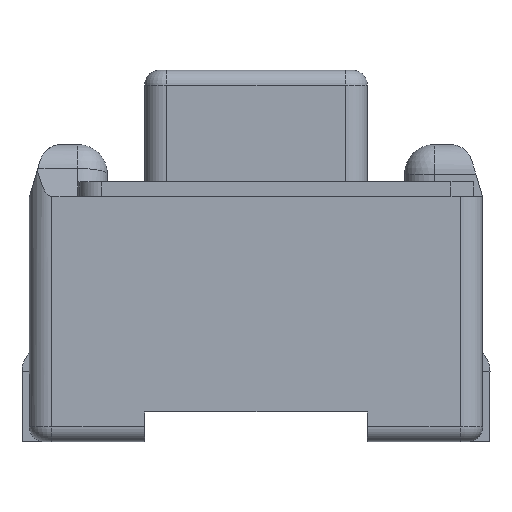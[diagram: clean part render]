
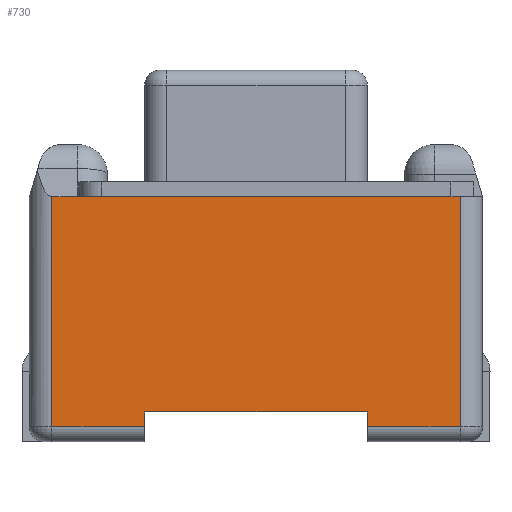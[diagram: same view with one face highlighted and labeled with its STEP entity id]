
A CAD part, front view. The second image highlights one B-rep face of the part: STEP entity #730.
In plain terms, the highlighted planar face has unit normal (0, -1, 0) as drawn and (0, 0, 1) by its records, which use the part's own axes.
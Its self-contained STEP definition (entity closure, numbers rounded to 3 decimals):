
#452 = ORIENTED_EDGE ( 'NONE', *, *, #453, .F. ) ;
#453 = EDGE_CURVE ( 'NONE', #528, #457, #3039, .T. ) ;
#455 = ORIENTED_EDGE ( 'NONE', *, *, #456, .F. ) ;
#456 = EDGE_CURVE ( 'NONE', #457, #527, #3174, .T. ) ;
#457 = VERTEX_POINT ( 'NONE', #3170 ) ;
#469 = VERTEX_POINT ( 'NONE', #3475 ) ;
#470 = ORIENTED_EDGE ( 'NONE', *, *, #531, .T. ) ;
#526 = EDGE_CURVE ( 'NONE', #469, #527, #3309, .T. ) ;
#527 = VERTEX_POINT ( 'NONE', #3305 ) ;
#528 = VERTEX_POINT ( 'NONE', #3304 ) ;
#530 = ORIENTED_EDGE ( 'NONE', *, *, #526, .T. ) ;
#531 = EDGE_CURVE ( 'NONE', #723, #469, #3453, .T. ) ;
#534 = VERTEX_POINT ( 'NONE', #3448 ) ;
#535 = ORIENTED_EDGE ( 'NONE', *, *, #536, .F. ) ;
#536 = EDGE_CURVE ( 'NONE', #534, #570, #3447, .T. ) ;
#566 = ORIENTED_EDGE ( 'NONE', *, *, #567, .T. ) ;
#567 = EDGE_CURVE ( 'NONE', #534, #722, #3571, .T. ) ;
#568 = VERTEX_POINT ( 'NONE', #3520 ) ;
#569 = EDGE_CURVE ( 'NONE', #528, #568, #3519, .T. ) ;
#570 = VERTEX_POINT ( 'NONE', #3515 ) ;
#574 = ORIENTED_EDGE ( 'NONE', *, *, #575, .F. ) ;
#575 = EDGE_CURVE ( 'NONE', #570, #568, #3629, .T. ) ;
#576 = ORIENTED_EDGE ( 'NONE', *, *, #569, .T. ) ;
#703 = EDGE_CURVE ( 'NONE', #721, #722, #4106, .T. ) ;
#713 = ORIENTED_EDGE ( 'NONE', *, *, #714, .T. ) ;
#714 = EDGE_CURVE ( 'NONE', #721, #717, #4058, .T. ) ;
#717 = VERTEX_POINT ( 'NONE', #4052 ) ;
#718 = ORIENTED_EDGE ( 'NONE', *, *, #719, .F. ) ;
#719 = EDGE_CURVE ( 'NONE', #723, #717, #4051, .T. ) ;
#721 = VERTEX_POINT ( 'NONE', #4030 ) ;
#722 = VERTEX_POINT ( 'NONE', #4029 ) ;
#723 = VERTEX_POINT ( 'NONE', #4028 ) ;
#730 = ADVANCED_FACE ( 'NONE', ( #4078 ), #4119, .F. ) ;
#737 = EDGE_LOOP ( 'NONE', ( #831, #713, #718, #470, #530, #455, #452, #576, #574, #535, #566 ) ) ;
#831 = ORIENTED_EDGE ( 'NONE', *, *, #703, .F. ) ;
#3036 = DIRECTION ( 'NONE',  ( -1., 0., 0. ) ) ;
#3037 = VECTOR ( 'NONE', #3036, 1000. ) ;
#3038 = CARTESIAN_POINT ( 'NONE',  ( 0., 0.4, 1.75 ) ) ;
#3039 = LINE ( 'NONE', #3038, #3037 ) ;
#3170 = CARTESIAN_POINT ( 'NONE',  ( -1.5, 0.4, 1.75 ) ) ;
#3171 = DIRECTION ( 'NONE',  ( 0., -1., 0. ) ) ;
#3172 = VECTOR ( 'NONE', #3171, 1000. ) ;
#3173 = CARTESIAN_POINT ( 'NONE',  ( -1.5, 0.4, 1.75 ) ) ;
#3174 = LINE ( 'NONE', #3173, #3172 ) ;
#3304 = CARTESIAN_POINT ( 'NONE',  ( 1.5, 0.4, 1.75 ) ) ;
#3305 = CARTESIAN_POINT ( 'NONE',  ( -1.5, 0.2, 1.75 ) ) ;
#3306 = DIRECTION ( 'NONE',  ( 1., 0., 0. ) ) ;
#3307 = VECTOR ( 'NONE', #3306, 1000. ) ;
#3308 = CARTESIAN_POINT ( 'NONE',  ( -1.5, 0.2, 1.75 ) ) ;
#3309 = LINE ( 'NONE', #3308, #3307 ) ;
#3444 = DIRECTION ( 'NONE',  ( 0., -1., 0. ) ) ;
#3445 = VECTOR ( 'NONE', #3444, 1000. ) ;
#3446 = CARTESIAN_POINT ( 'NONE',  ( 2.75, 3.3, 1.75 ) ) ;
#3447 = LINE ( 'NONE', #3446, #3445 ) ;
#3448 = CARTESIAN_POINT ( 'NONE',  ( 2.75, 3.3, 1.75 ) ) ;
#3450 = DIRECTION ( 'NONE',  ( 0., -1., 0. ) ) ;
#3451 = VECTOR ( 'NONE', #3450, 1000. ) ;
#3452 = CARTESIAN_POINT ( 'NONE',  ( -2.75, 3.3, 1.75 ) ) ;
#3453 = LINE ( 'NONE', #3452, #3451 ) ;
#3475 = CARTESIAN_POINT ( 'NONE',  ( -2.75, 0.2, 1.75 ) ) ;
#3515 = CARTESIAN_POINT ( 'NONE',  ( 2.75, 0.2, 1.75 ) ) ;
#3516 = DIRECTION ( 'NONE',  ( 0., -1., 0. ) ) ;
#3517 = VECTOR ( 'NONE', #3516, 1000. ) ;
#3518 = CARTESIAN_POINT ( 'NONE',  ( 1.5, 0.4, 1.75 ) ) ;
#3519 = LINE ( 'NONE', #3518, #3517 ) ;
#3520 = CARTESIAN_POINT ( 'NONE',  ( 1.5, 0.2, 1.75 ) ) ;
#3521 = DIRECTION ( 'NONE',  ( -1., 0., 0. ) ) ;
#3522 = VECTOR ( 'NONE', #3521, 1000. ) ;
#3523 = CARTESIAN_POINT ( 'NONE',  ( 0., 3.3, 1.75 ) ) ;
#3571 = LINE ( 'NONE', #3523, #3522 ) ;
#3626 = DIRECTION ( 'NONE',  ( -1., 0., 0. ) ) ;
#3627 = VECTOR ( 'NONE', #3626, 1000. ) ;
#3628 = CARTESIAN_POINT ( 'NONE',  ( 1.5, 0.2, 1.75 ) ) ;
#3629 = LINE ( 'NONE', #3628, #3627 ) ;
#4028 = CARTESIAN_POINT ( 'NONE',  ( -2.75, 3.3, 1.75 ) ) ;
#4029 = CARTESIAN_POINT ( 'NONE',  ( 2.625, 3.3, 1.75 ) ) ;
#4030 = CARTESIAN_POINT ( 'NONE',  ( -2.075, 3.3, 1.75 ) ) ;
#4035 = DIRECTION ( 'NONE',  ( 1., 0., 0. ) ) ;
#4036 = VECTOR ( 'NONE', #4035, 1000. ) ;
#4050 = CARTESIAN_POINT ( 'NONE',  ( -3.05, 3.3, 1.75 ) ) ;
#4051 = LINE ( 'NONE', #4050, #4036 ) ;
#4052 = CARTESIAN_POINT ( 'NONE',  ( -2.4, 3.3, 1.75 ) ) ;
#4055 = DIRECTION ( 'NONE',  ( -1., 0., 0. ) ) ;
#4056 = VECTOR ( 'NONE', #4055, 1000. ) ;
#4057 = CARTESIAN_POINT ( 'NONE',  ( 0., 3.3, 1.75 ) ) ;
#4058 = LINE ( 'NONE', #4057, #4056 ) ;
#4078 = FACE_OUTER_BOUND ( 'NONE', #737, .T. ) ;
#4105 = CARTESIAN_POINT ( 'NONE',  ( 2.925, 3.3, 1.75 ) ) ;
#4106 = LINE ( 'NONE', #4105, #4118 ) ;
#4117 = DIRECTION ( 'NONE',  ( 1., 0., 0. ) ) ;
#4118 = VECTOR ( 'NONE', #4117, 1000. ) ;
#4119 = PLANE ( 'NONE',  #4136 ) ;
#4122 = CARTESIAN_POINT ( 'NONE',  ( 2.925, 3.5, 1.75 ) ) ;
#4129 = DIRECTION ( 'NONE',  ( 1., 0., 0. ) ) ;
#4136 = AXIS2_PLACEMENT_3D ( 'NONE', #4122, #4137, #4129 ) ;
#4137 = DIRECTION ( 'NONE',  ( 0., 0., -1. ) ) ;
